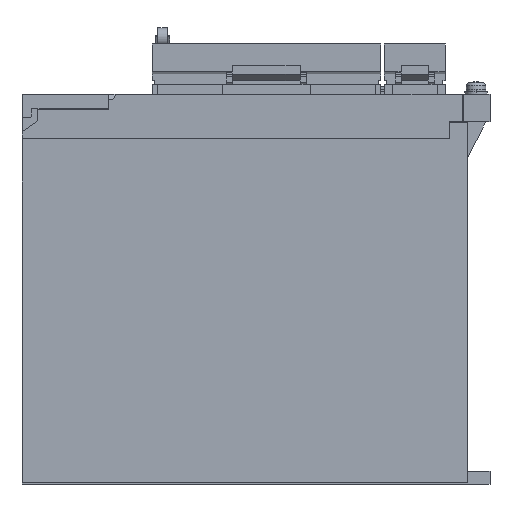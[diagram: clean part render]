
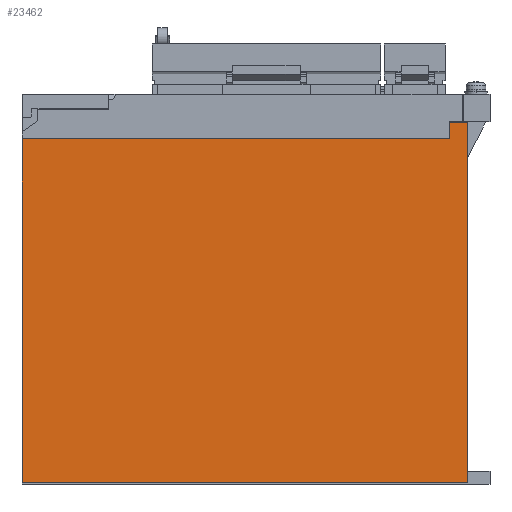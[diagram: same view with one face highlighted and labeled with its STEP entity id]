
A CAD part, left-side view. The second image highlights one B-rep face of the part: STEP entity #23462.
In plain terms, the highlighted planar face has unit normal (-1, 0, 0).
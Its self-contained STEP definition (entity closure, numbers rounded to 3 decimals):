
#382=DIRECTION('',(0.,0.,1.));
#383=VECTOR('',#382,129.4);
#384=CARTESIAN_POINT('',(0.,0.,0.5));
#385=LINE('',#384,#383);
#514=DIRECTION('',(0.,-1.,0.));
#515=VECTOR('',#514,160.);
#516=CARTESIAN_POINT('',(0.,160.,0.5));
#517=LINE('',#516,#515);
#3555=DIRECTION('',(0.,1.,0.));
#3556=VECTOR('',#3555,6.6);
#3557=CARTESIAN_POINT('',(0.,0.,129.9));
#3558=LINE('',#3557,#3556);
#3567=DIRECTION('',(0.,0.,1.));
#3568=VECTOR('',#3567,123.4);
#3569=CARTESIAN_POINT('',(0.,160.,0.5));
#3570=LINE('',#3569,#3568);
#3575=DIRECTION('',(0.,1.,0.));
#3576=VECTOR('',#3575,153.4);
#3577=CARTESIAN_POINT('',(0.,6.6,123.9));
#3578=LINE('',#3577,#3576);
#3579=DIRECTION('',(0.,0.,-1.));
#3580=VECTOR('',#3579,6.);
#3581=CARTESIAN_POINT('',(0.,6.6,129.9));
#3582=LINE('',#3581,#3580);
#12978=CARTESIAN_POINT('',(0.,160.,0.5));
#12979=CARTESIAN_POINT('',(0.,0.,0.5));
#12980=VERTEX_POINT('',#12978);
#12981=VERTEX_POINT('',#12979);
#15392=CARTESIAN_POINT('',(0.,160.,123.9));
#15394=VERTEX_POINT('',#15392);
#15413=CARTESIAN_POINT('',(0.,0.,129.9));
#15414=VERTEX_POINT('',#15413);
#15429=CARTESIAN_POINT('',(0.,6.6,129.9));
#15430=VERTEX_POINT('',#15429);
#15431=CARTESIAN_POINT('',(0.,6.6,123.9));
#15433=VERTEX_POINT('',#15431);
#23446=CARTESIAN_POINT('',(0.,1.6,140.));
#23447=DIRECTION('',(-1.,0.,0.));
#23448=DIRECTION('',(0.,-1.,0.));
#23449=AXIS2_PLACEMENT_3D('',#23446,#23447,#23448);
#23450=PLANE('',#23449);
#23452=ORIENTED_EDGE('',*,*,#23451,.F.);
#23454=ORIENTED_EDGE('',*,*,#23453,.F.);
#23455=ORIENTED_EDGE('',*,*,#23435,.F.);
#23456=ORIENTED_EDGE('',*,*,#17052,.F.);
#23457=ORIENTED_EDGE('',*,*,#17266,.F.);
#23459=ORIENTED_EDGE('',*,*,#23458,.T.);
#23460=EDGE_LOOP('',(#23452,#23454,#23455,#23456,#23457,#23459));
#23461=FACE_OUTER_BOUND('',#23460,.F.);
#17052=EDGE_CURVE('',#12981,#15414,#385,.T.);
#17266=EDGE_CURVE('',#12980,#12981,#517,.T.);
#23435=EDGE_CURVE('',#15414,#15430,#3558,.T.);
#23451=EDGE_CURVE('',#15433,#15394,#3578,.T.);
#23453=EDGE_CURVE('',#15430,#15433,#3582,.T.);
#23458=EDGE_CURVE('',#12980,#15394,#3570,.T.);
#23462=ADVANCED_FACE('',(#23461),#23450,.T.);
